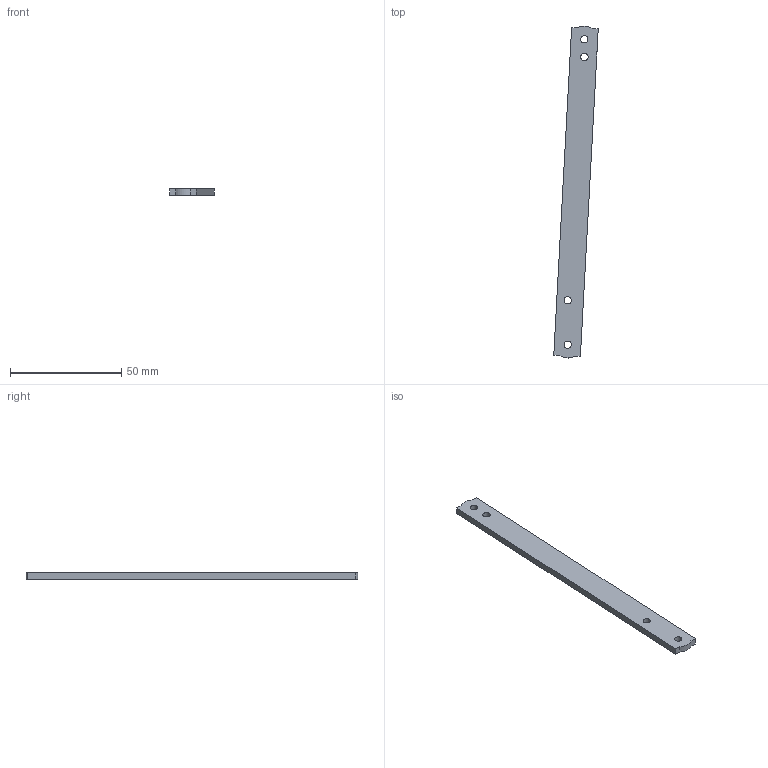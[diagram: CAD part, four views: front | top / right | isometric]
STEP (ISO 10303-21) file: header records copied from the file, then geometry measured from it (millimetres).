
FILE_DESCRIPTION(('Open CASCADE Model'),'2;1');
FILE_NAME('F08-COL','2026-11-15T22:32:29',('Author'),('Open CASCADE'), 'Open CASCADE STEP processor 8.0','build123d','Unknown');
FILE_SCHEMA(('AUTOMOTIVE_DESIGN { 1 0 10303 214 1 1 1 1 }'));
Length unit declared in the file: millimetre
Products named in the file (1): F08-COL
Bounding box: 20.03 x 149.49 x 3 mm (x, y, z)
Volume: 5240.2 mm3; surface area: 4579.4 mm2
Topology: 1 solids, 1 shells, 14 faces, 36 edges, 24 vertices
Faces by surface type: plane 8, cylinder 6
Full cylindrical faces by diameter (mm): 3.3 x3, 3.4 x1
Entity records: 918 total; most frequent: CARTESIAN_POINT 155, DIRECTION 142, LINE 76, VECTOR 76, ORIENTED_EDGE 72, PCURVE 72, DEFINITIONAL_REPRESENTATION 72, EDGE_CURVE 36
